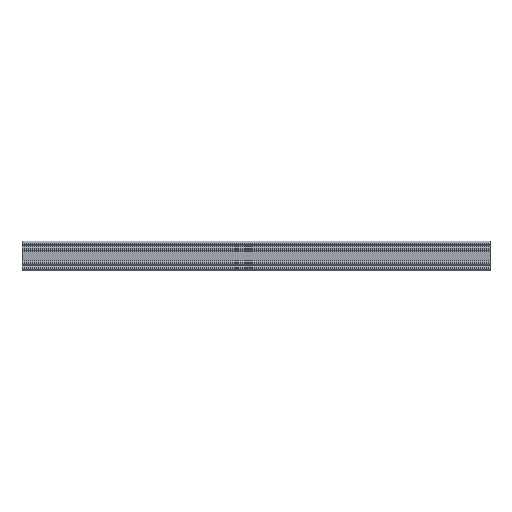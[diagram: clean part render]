
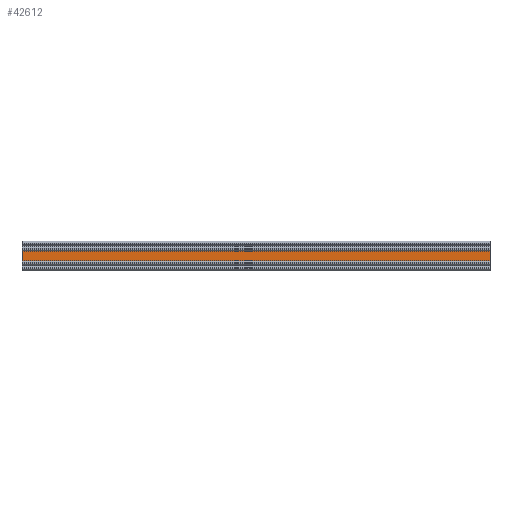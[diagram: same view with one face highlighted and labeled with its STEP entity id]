
A CAD part, left-side view. The second image highlights one B-rep face of the part: STEP entity #42612.
In plain terms, the highlighted planar face has unit normal (-1, 0, 0).
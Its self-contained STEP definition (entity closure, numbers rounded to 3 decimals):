
#49 = LINE ( 'NONE', #46043, #23722 ) ;
#1681 = ORIENTED_EDGE ( 'NONE', *, *, #7799, .T. ) ;
#3530 = LINE ( 'NONE', #30466, #24598 ) ;
#4648 = CARTESIAN_POINT ( 'NONE',  ( -8., -192., 5.525 ) ) ;
#5535 = EDGE_CURVE ( 'NONE', #16466, #22547, #41160, .T. ) ;
#7289 = LINE ( 'NONE', #25730, #31629 ) ;
#7799 = EDGE_CURVE ( 'NONE', #49629, #16466, #3530, .T. ) ;
#8930 = VECTOR ( 'NONE', #42358, 1000. ) ;
#9472 = DIRECTION ( 'NONE',  ( 0., 1., 0. ) ) ;
#10150 = DIRECTION ( 'NONE',  ( 0., 0., -1. ) ) ;
#10891 = ORIENTED_EDGE ( 'NONE', *, *, #23240, .F. ) ;
#16422 = CARTESIAN_POINT ( 'NONE',  ( -8., -192., -5.525 ) ) ;
#16466 = VERTEX_POINT ( 'NONE', #52644 ) ;
#17227 = ORIENTED_EDGE ( 'NONE', *, *, #5535, .T. ) ;
#17724 = EDGE_LOOP ( 'NONE', ( #17227, #10891, #20859, #1681 ) ) ;
#18772 = DIRECTION ( 'NONE',  ( 1., 0., 0. ) ) ;
#20859 = ORIENTED_EDGE ( 'NONE', *, *, #32870, .F. ) ;
#20974 = AXIS2_PLACEMENT_3D ( 'NONE', #4648, #18772, #10150 ) ;
#22547 = VERTEX_POINT ( 'NONE', #33855 ) ;
#23240 = EDGE_CURVE ( 'NONE', #39852, #22547, #7289, .T. ) ;
#23722 = VECTOR ( 'NONE', #25274, 1000. ) ;
#23740 = CARTESIAN_POINT ( 'NONE',  ( -8., -192., 5.525 ) ) ;
#24598 = VECTOR ( 'NONE', #9472, 1000. ) ;
#25274 = DIRECTION ( 'NONE',  ( 0., 0., -1. ) ) ;
#25730 = CARTESIAN_POINT ( 'NONE',  ( -8., -192., -5.525 ) ) ;
#29505 = CARTESIAN_POINT ( 'NONE',  ( -8., 192., 5.525 ) ) ;
#29901 = PLANE ( 'NONE',  #20974 ) ;
#30466 = CARTESIAN_POINT ( 'NONE',  ( -8., -192., 5.525 ) ) ;
#31629 = VECTOR ( 'NONE', #50581, 1000. ) ;
#32870 = EDGE_CURVE ( 'NONE', #49629, #39852, #49, .T. ) ;
#33855 = CARTESIAN_POINT ( 'NONE',  ( -8., 192., -5.525 ) ) ;
#39852 = VERTEX_POINT ( 'NONE', #16422 ) ;
#41160 = LINE ( 'NONE', #29505, #8930 ) ;
#42358 = DIRECTION ( 'NONE',  ( 0., 0., -1. ) ) ;
#42612 = ADVANCED_FACE ( 'NONE', ( #46342 ), #29901, .F. ) ;
#46043 = CARTESIAN_POINT ( 'NONE',  ( -8., -192., 5.525 ) ) ;
#46342 = FACE_OUTER_BOUND ( 'NONE', #17724, .T. ) ;
#49629 = VERTEX_POINT ( 'NONE', #23740 ) ;
#50581 = DIRECTION ( 'NONE',  ( 0., 1., 0. ) ) ;
#52644 = CARTESIAN_POINT ( 'NONE',  ( -8., 192., 5.525 ) ) ;
